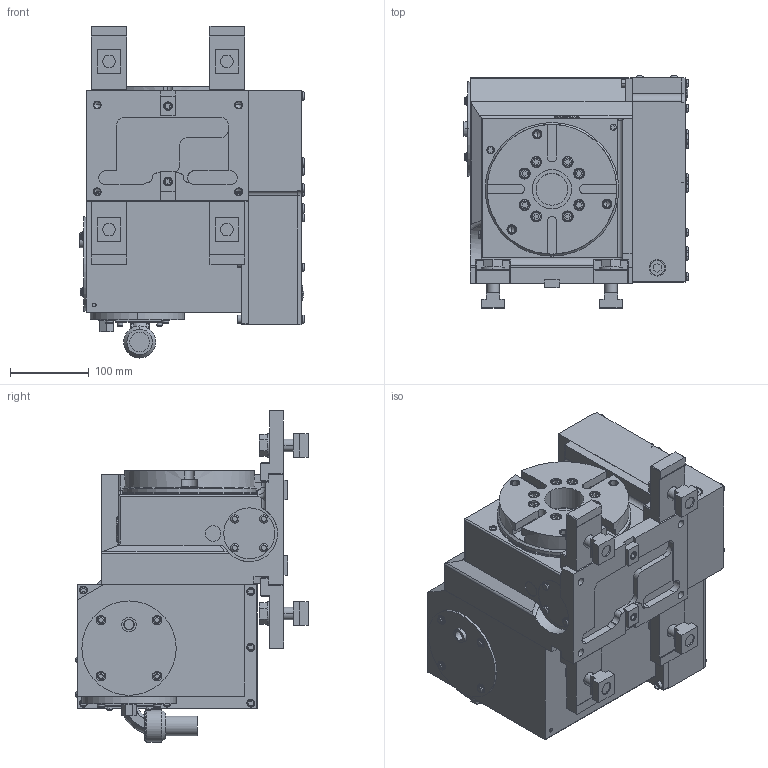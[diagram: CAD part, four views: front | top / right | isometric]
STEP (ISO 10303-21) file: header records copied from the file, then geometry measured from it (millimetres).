
FILE_DESCRIPTION (( 'STEP AP214' ), '1' );
FILE_NAME ('TBX160BV.STEP', '2019-12-10T04:22:13', ( '' ), ( '' ), 'SwSTEP 2.0', 'SolidWorks 2017', '' );
FILE_SCHEMA (( 'AUTOMOTIVE_DESIGN' ));
Length unit declared in the file: millimetre
Products named in the file (13): モータケース(61E2447100)TBX160B20; キタガワシール; SMC KQ2E06-02; TBX160B01僋儈僞僥(61E112296); ギヤーボックス(61E1103032)TBX160B01; テーブル(61E3408190)TM160A00; 儂儞僞僀ASSY(61E1103072)TBX160B01; TBX160BV; CLAMPING PARTS(61E445870)結合; TBX160BVホンタイ; 働乕僽儖N29ZSZ2562; 僇僶乕Q(61E4464542)TMX160B20; コネクタプレート(61E4463873)TMX160B20
Assembly tree (15 placements, depth 4):
  TBX160BV
    TBX160BVホンタイ
      TBX160B01僋儈僞僥(61E112296)
        儂儞僞僀ASSY(61E1103072)TBX160B01
        テーブル(61E3408190)TM160A00
        ギヤーボックス(61E1103032)TBX160B01
      SMC KQ2E06-02
      キタガワシール
      モータケース(61E2447100)TBX160B20
      コネクタプレート(61E4463873)TMX160B20
      僇僶乕Q(61E4464542)TMX160B20
      働乕僽儖N29ZSZ2562
    CLAMPING PARTS(61E445870)結合  x4
Bounding box: 285.6 x 295.75 x 422.4 mm (x, y, z)
Volume: 16689571.3 mm3; surface area: 940366.4 mm2
Topology: 13 solids, 17 shells, 2735 faces, 7197 edges, 4718 vertices
Faces by surface type: plane 2067, cylinder 490, torus 84, cone 82, bspline 8, sphere 4
Entity records: 87170 total; most frequent: CARTESIAN_POINT 14602, ORIENTED_EDGE 13588, DIRECTION 13095, EDGE_CURVE 6794, VECTOR 5589, LINE 5589, VERTEX_POINT 4472, AXIS2_PLACEMENT_3D 3753
